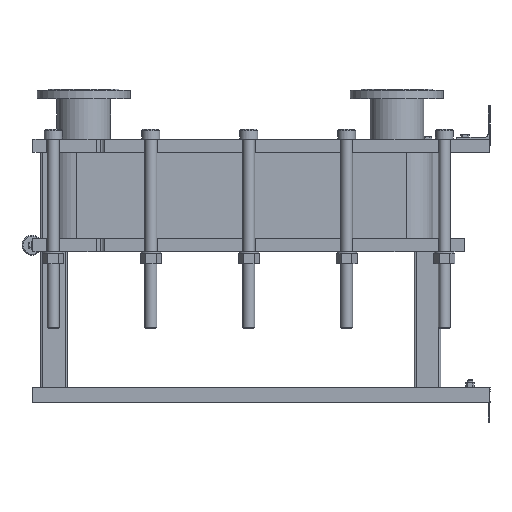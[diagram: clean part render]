
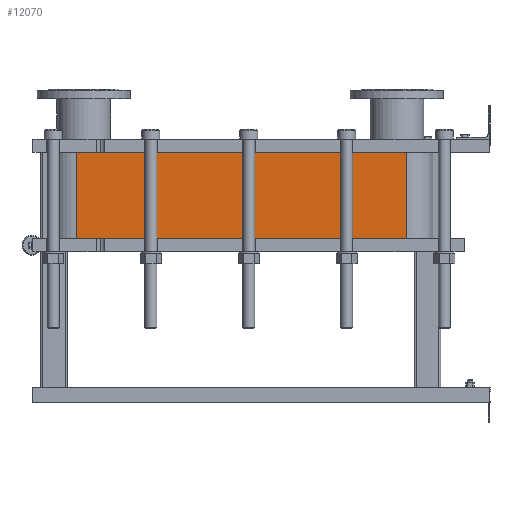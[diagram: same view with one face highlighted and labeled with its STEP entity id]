
A CAD part, left-side view. The second image highlights one B-rep face of the part: STEP entity #12070.
In plain terms, the highlighted planar face has unit normal (-1, 0, 0).
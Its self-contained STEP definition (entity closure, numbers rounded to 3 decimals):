
#1064=LINE('',#21140,#2164);
#1065=LINE('',#21144,#2165);
#1066=LINE('',#21146,#2166);
#1067=LINE('',#21147,#2167);
#2164=VECTOR('',#15790,10.);
#2165=VECTOR('',#15795,10.);
#2166=VECTOR('',#15796,10.);
#2167=VECTOR('',#15797,10.);
#3304=FACE_OUTER_BOUND('',#4091,.T.);
#4091=EDGE_LOOP('',(#9793,#9794,#9795,#9796));
#5677=VERTEX_POINT('',#21137);
#5678=VERTEX_POINT('',#21139);
#5679=VERTEX_POINT('',#21143);
#5680=VERTEX_POINT('',#21145);
#7118=EDGE_CURVE('',#5678,#5677,#1064,.T.);
#7120=EDGE_CURVE('',#5677,#5679,#1065,.T.);
#7121=EDGE_CURVE('',#5680,#5679,#1066,.T.);
#7122=EDGE_CURVE('',#5680,#5678,#1067,.T.);
#9793=ORIENTED_EDGE('',*,*,#7120,.T.);
#9794=ORIENTED_EDGE('',*,*,#7121,.F.);
#9795=ORIENTED_EDGE('',*,*,#7122,.T.);
#9796=ORIENTED_EDGE('',*,*,#7118,.T.);
#11441=PLANE('',#13191);
#12070=ADVANCED_FACE('',(#3304),#11441,.T.);
#13191=AXIS2_PLACEMENT_3D('',#21142,#15793,#15794);
#15790=DIRECTION('',(0.,0.,-1.));
#15793=DIRECTION('center_axis',(-1.,0.,0.));
#15794=DIRECTION('ref_axis',(0.,1.,0.));
#15795=DIRECTION('',(0.,-1.,0.));
#15796=DIRECTION('',(0.,0.,-1.));
#15797=DIRECTION('',(0.,1.,0.));
#21137=CARTESIAN_POINT('',(-248.152,1243.818,-258.75));
#21139=CARTESIAN_POINT('',(-248.152,1243.818,0.));
#21140=CARTESIAN_POINT('',(-248.152,1243.818,0.));
#21142=CARTESIAN_POINT('Origin',(-248.152,251.818,0.));
#21143=CARTESIAN_POINT('',(-248.152,251.818,-258.75));
#21144=CARTESIAN_POINT('',(-248.152,499.818,-258.75));
#21145=CARTESIAN_POINT('',(-248.152,251.818,0.));
#21146=CARTESIAN_POINT('',(-248.152,251.818,0.));
#21147=CARTESIAN_POINT('',(-248.152,251.818,0.));
